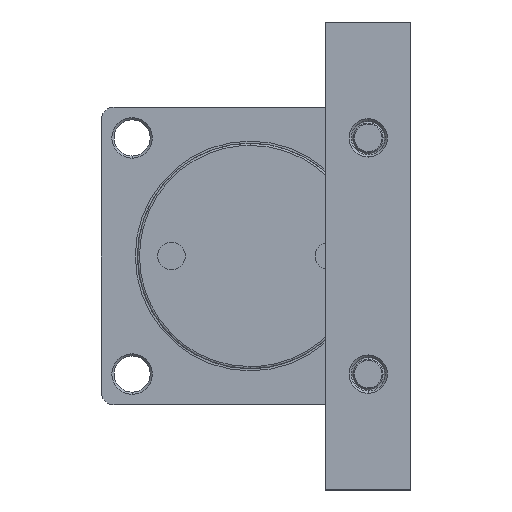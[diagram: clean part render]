
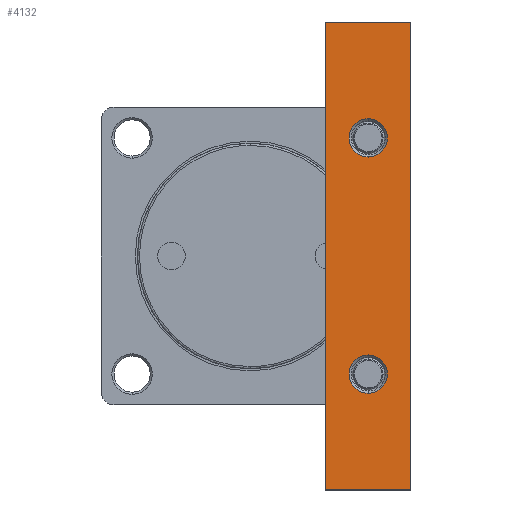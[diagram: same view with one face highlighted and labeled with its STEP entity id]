
A CAD part, left-side view. The second image highlights one B-rep face of the part: STEP entity #4132.
In plain terms, the highlighted planar face has unit normal (1, 0, 0).
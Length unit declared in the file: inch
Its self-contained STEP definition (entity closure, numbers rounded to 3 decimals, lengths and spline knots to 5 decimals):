
#14 = DIRECTION ( 'NONE',  ( 0., 0., 1. ) ) ;
#193 = DIRECTION ( 'NONE',  ( 0., 0., 1. ) ) ;
#205 = DIRECTION ( 'NONE',  ( -1., 0., 0. ) ) ;
#219 = CARTESIAN_POINT ( 'NONE',  ( -2.61811, -2.18504, -2.18504 ) ) ;
#390 = DIRECTION ( 'NONE',  ( -1., 0., 0. ) ) ;
#1245 = VERTEX_POINT ( 'NONE', #2764 ) ;
#1803 = VERTEX_POINT ( 'NONE', #5084 ) ;
#1818 = DIRECTION ( 'NONE',  ( -1., 0., 0. ) ) ;
#2274 = EDGE_LOOP ( 'NONE', ( #11604, #11423, #7852, #12441 ) ) ;
#2764 = CARTESIAN_POINT ( 'NONE',  ( -2.61811, -2.18504, -1.83071 ) ) ;
#2812 = CIRCLE ( 'NONE', #5276, 0.35433 ) ;
#2998 = PLANE ( 'NONE',  #5078 ) ;
#3000 = FACE_OUTER_BOUND ( 'NONE', #2274, .T. ) ;
#3076 = CARTESIAN_POINT ( 'NONE',  ( -2.61811, -2.97244, 4.33071 ) ) ;
#3165 = FACE_BOUND ( 'NONE', #6113, .T. ) ;
#3309 = FACE_BOUND ( 'NONE', #6341, .T. ) ;
#3401 = DIRECTION ( 'NONE',  ( 1., 0., 0. ) ) ;
#3672 = DIRECTION ( 'NONE',  ( 0., 0., -1. ) ) ;
#4060 = EDGE_CURVE ( 'NONE', #6880, #1245, #2812, .T. ) ;
#4132 = ADVANCED_FACE ( 'NONE', ( #3000, #3309, #3165 ), #2998, .T. ) ;
#4192 = CARTESIAN_POINT ( 'NONE',  ( -2.61811, -1.39764, 4.33071 ) ) ;
#4275 = CARTESIAN_POINT ( 'NONE',  ( -2.61811, -1.39764, 4.33071 ) ) ;
#4321 = VERTEX_POINT ( 'NONE', #8478 ) ;
#4559 = CARTESIAN_POINT ( 'NONE',  ( -2.61811, -2.97244, -4.33071 ) ) ;
#5078 = AXIS2_PLACEMENT_3D ( 'NONE', #3076, #3401, #3672 ) ;
#5084 = CARTESIAN_POINT ( 'NONE',  ( -2.61811, -2.97244, 4.33071 ) ) ;
#5086 = VECTOR ( 'NONE', #9945, 39.37008 ) ;
#5107 = CARTESIAN_POINT ( 'NONE',  ( -2.61811, -2.18504, -2.53937 ) ) ;
#5139 = LINE ( 'NONE', #4559, #5086 ) ;
#5149 = VECTOR ( 'NONE', #6591, 39.37008 ) ;
#5185 = LINE ( 'NONE', #5533, #5149 ) ;
#5236 = VECTOR ( 'NONE', #8644, 39.37008 ) ;
#5253 = LINE ( 'NONE', #9844, #5236 ) ;
#5276 = AXIS2_PLACEMENT_3D ( 'NONE', #219, #205, #193 ) ;
#5382 = VECTOR ( 'NONE', #11779, 39.37008 ) ;
#5442 = LINE ( 'NONE', #4275, #5382 ) ;
#5533 = CARTESIAN_POINT ( 'NONE',  ( -2.61811, -2.97244, 4.33071 ) ) ;
#5711 = CIRCLE ( 'NONE', #8680, 0.35433 ) ;
#6113 = EDGE_LOOP ( 'NONE', ( #8479, #8751 ) ) ;
#6182 = CIRCLE ( 'NONE', #9210, 0.35433 ) ;
#6245 = DIRECTION ( 'NONE',  ( -1., 0., 0. ) ) ;
#6341 = EDGE_LOOP ( 'NONE', ( #9052, #8359 ) ) ;
#6591 = DIRECTION ( 'NONE',  ( 0., 0., -1. ) ) ;
#6658 = CARTESIAN_POINT ( 'NONE',  ( -2.61811, -2.18504, -2.18504 ) ) ;
#6701 = CARTESIAN_POINT ( 'NONE',  ( -2.61811, -2.18504, 2.53937 ) ) ;
#6880 = VERTEX_POINT ( 'NONE', #5107 ) ;
#7735 = AXIS2_PLACEMENT_3D ( 'NONE', #8170, #1818, #9310 ) ;
#7750 = DIRECTION ( 'NONE',  ( 0., 0., 1. ) ) ;
#7852 = ORIENTED_EDGE ( 'NONE', *, *, #13373, .T. ) ;
#8170 = CARTESIAN_POINT ( 'NONE',  ( -2.61811, -2.18504, 2.18504 ) ) ;
#8359 = ORIENTED_EDGE ( 'NONE', *, *, #13571, .T. ) ;
#8478 = CARTESIAN_POINT ( 'NONE',  ( -2.61811, -2.18504, 1.83071 ) ) ;
#8479 = ORIENTED_EDGE ( 'NONE', *, *, #12743, .T. ) ;
#8644 = DIRECTION ( 'NONE',  ( 0., -1., 0. ) ) ;
#8680 = AXIS2_PLACEMENT_3D ( 'NONE', #12612, #6245, #14 ) ;
#8751 = ORIENTED_EDGE ( 'NONE', *, *, #4060, .T. ) ;
#9052 = ORIENTED_EDGE ( 'NONE', *, *, #13003, .T. ) ;
#9210 = AXIS2_PLACEMENT_3D ( 'NONE', #6658, #390, #7750 ) ;
#9242 = VERTEX_POINT ( 'NONE', #13450 ) ;
#9310 = DIRECTION ( 'NONE',  ( 0., 0., 1. ) ) ;
#9387 = VERTEX_POINT ( 'NONE', #12823 ) ;
#9844 = CARTESIAN_POINT ( 'NONE',  ( -2.61811, -2.97244, 4.33071 ) ) ;
#9945 = DIRECTION ( 'NONE',  ( 0., 1., 0. ) ) ;
#10814 = VERTEX_POINT ( 'NONE', #4192 ) ;
#11423 = ORIENTED_EDGE ( 'NONE', *, *, #13319, .T. ) ;
#11604 = ORIENTED_EDGE ( 'NONE', *, *, #13169, .T. ) ;
#11779 = DIRECTION ( 'NONE',  ( 0., 0., 1. ) ) ;
#12441 = ORIENTED_EDGE ( 'NONE', *, *, #13475, .T. ) ;
#12573 = CIRCLE ( 'NONE', #7735, 0.35433 ) ;
#12612 = CARTESIAN_POINT ( 'NONE',  ( -2.61811, -2.18504, 2.18504 ) ) ;
#12743 = EDGE_CURVE ( 'NONE', #1245, #6880, #6182, .T. ) ;
#12783 = VERTEX_POINT ( 'NONE', #6701 ) ;
#12823 = CARTESIAN_POINT ( 'NONE',  ( -2.61811, -2.97244, -4.33071 ) ) ;
#13003 = EDGE_CURVE ( 'NONE', #12783, #4321, #5711, .T. ) ;
#13169 = EDGE_CURVE ( 'NONE', #9242, #10814, #5442, .T. ) ;
#13319 = EDGE_CURVE ( 'NONE', #10814, #1803, #5253, .T. ) ;
#13373 = EDGE_CURVE ( 'NONE', #1803, #9387, #5185, .T. ) ;
#13450 = CARTESIAN_POINT ( 'NONE',  ( -2.61811, -1.39764, -4.33071 ) ) ;
#13475 = EDGE_CURVE ( 'NONE', #9387, #9242, #5139, .T. ) ;
#13571 = EDGE_CURVE ( 'NONE', #4321, #12783, #12573, .T. ) ;
